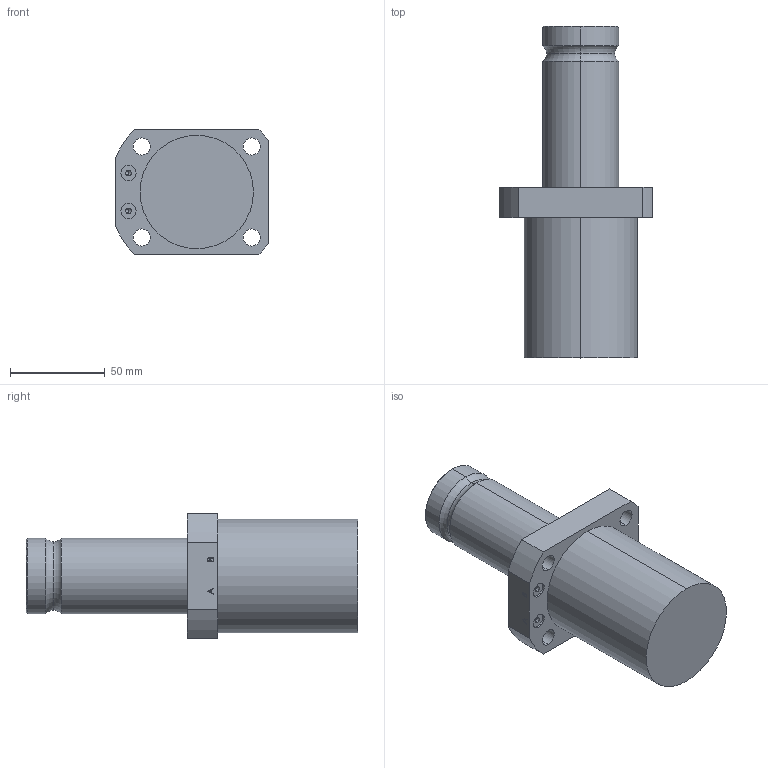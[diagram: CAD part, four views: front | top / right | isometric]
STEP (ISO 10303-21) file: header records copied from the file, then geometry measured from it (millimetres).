
FILE_DESCRIPTION (( 'STEP AP214' ), '1' );
FILE_NAME ('ISCC-IP-X-2-002.STEP', '2019-12-31T13:00:50', ( '' ), ( '' ), 'SwSTEP 2.0', 'SolidWorks 2014', '' );
FILE_SCHEMA (( 'AUTOMOTIVE_DESIGN' ));
Length unit declared in the file: millimetre
Products named in the file (3): ISCC-IP-X-2-002; Geh-BG2-2; Kolben-BG2
Assembly tree (2 placements, depth 2):
  ISCC-IP-X-2-002
    Geh-BG2-2
    Kolben-BG2
Bounding box: 81 x 175 x 66 mm (x, y, z)
Volume: 318940.3 mm3; surface area: 50884.2 mm2
Topology: 2 solids, 2 shells, 96 faces, 225 edges, 144 vertices
Faces by surface type: plane 41, cylinder 36, bspline 9, cone 6, torus 4
Entity records: 3349 total; most frequent: CARTESIAN_POINT 1027, DIRECTION 467, ORIENTED_EDGE 442, EDGE_CURVE 221, AXIS2_PLACEMENT_3D 172, VERTEX_POINT 144, VECTOR 123, LINE 123
